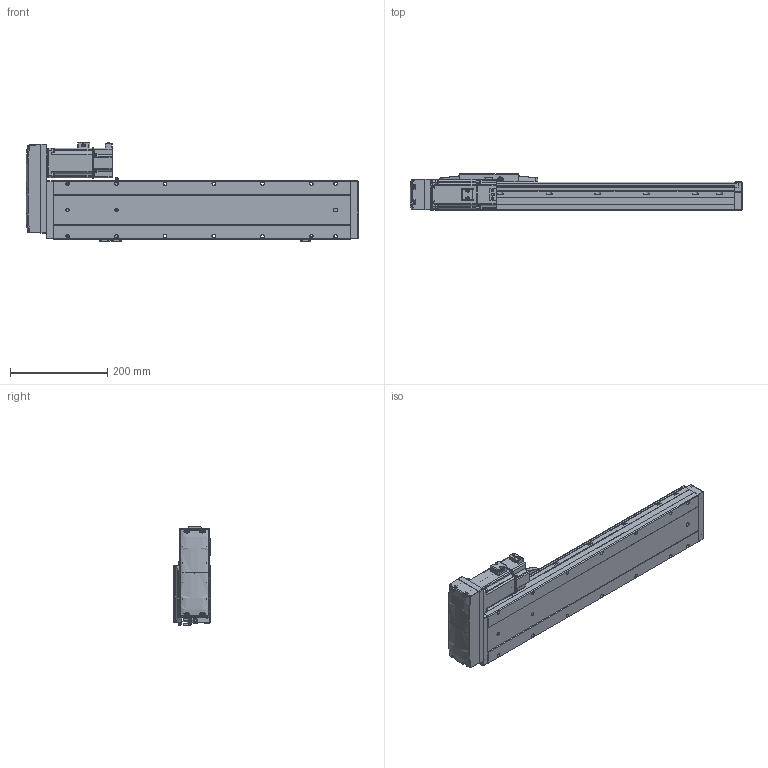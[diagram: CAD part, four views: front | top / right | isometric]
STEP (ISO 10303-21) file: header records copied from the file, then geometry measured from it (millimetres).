
FILE_DESCRIPTION (( 'STEP AP214' ), '1' );
FILE_NAME ('CTH12-L10-S400-BL-C40（简）.STEP', '2023-02-06T05:04:30', ( '' ), ( '' ), 'SwSTEP 2.0', 'SolidWorks 2018', '' );
FILE_SCHEMA (( 'AUTOMOTIVE_DESIGN' ));
Length unit declared in the file: millimetre
Products named in the file (24): CTH12_body_3; CTH12覜茼え; CTH嫖萇羲壽假蚾啣; 湮賑怢  裔赽-1(CTH12)賑怢; CTH12底座-L611简（400行程）; 嫖萇羲壽郪磁2; CTH400W假蚾啣; CTH12-L10-S400-BL-C40（简）; hex nuts, style 1-grades ab gb_GB_FASTENER_NUT_SNAB1 M3-N; 嫖萇羲壽郪磁1; 内六角圆柱头螺钉M3-1; 内六角圆柱头螺钉M3; 内六角圆柱头螺钉M3-2; PM-Y45; CTH400W垫板（3个厚）; M5蹟隊; CTH12; 400W萇儂; CTH12賑怢郪磁; CTH12賑怢ㄗ潠ㄘ; CTH12侧装连接板（标准）简; CTH12耜蚾裔; 蚐郲; CTH12-BL_body_4
Assembly tree (44 placements, depth 4):
  CTH12-L10-S400-BL-C40（简）
    CTH12底座-L611简（400行程）
    蚐郲  x2
    CTH12_body_3
    CTH12-BL_body_4
    CTH12侧装连接板（标准）简
    CTH12耜蚾裔
    CTH12賑怢郪磁
      CTH12
        湮賑怢  裔赽-1(CTH12)賑怢
        CTH12賑怢ㄗ潠ㄘ
    CTH12覜茼え
    CTH400W垫板（3个厚）
    400W萇儂
    内六角圆柱头螺钉M3  x6
    M5蹟隊  x4
    嫖萇羲壽郪磁1
      CTH嫖萇羲壽假蚾啣
      PM-Y45
      内六角圆柱头螺钉M3-2  x2
      内六角圆柱头螺钉M3-1  x2
      hex nuts, style 1-grades ab gb_GB_FASTENER_NUT_SNAB1 M3-N  x2
    嫖萇羲壽郪磁2  x2
      CTH嫖萇羲壽假蚾啣
      PM-Y45
      内六角圆柱头螺钉M3-1
      内六角圆柱头螺钉M3-2
      hex nuts, style 1-grades ab gb_GB_FASTENER_NUT_SNAB1 M3-N
    CTH400W假蚾啣
Bounding box: 681.5 x 76 x 205.26 mm (x, y, z)
Volume: 4752230.4 mm3; surface area: 577322.6 mm2
Topology: 47 solids, 48 shells, 3149 faces, 7850 edges, 4923 vertices
Faces by surface type: plane 1530, cylinder 908, cone 403, bspline 180, torus 124, sphere 4
Entity records: 103394 total; most frequent: CARTESIAN_POINT 38626, ORIENTED_EDGE 12802, DIRECTION 12083, EDGE_CURVE 6401, AXIS2_PLACEMENT_3D 4232, VERTEX_POINT 4027, LINE 3619, VECTOR 3619
